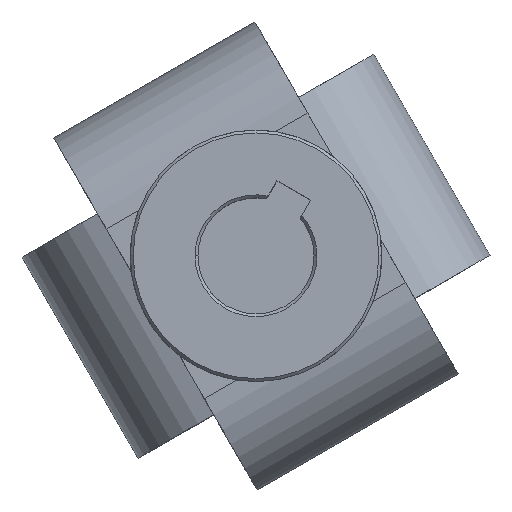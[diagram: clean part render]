
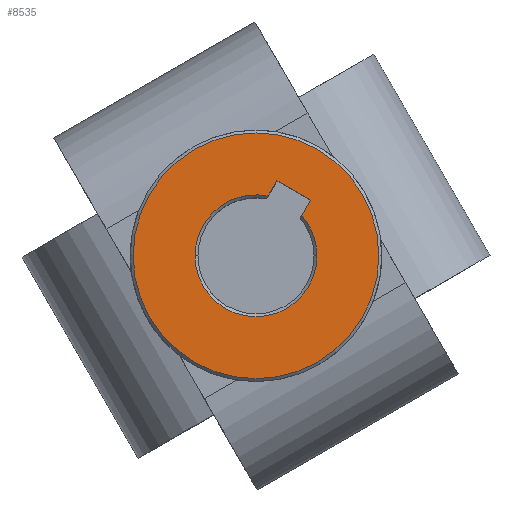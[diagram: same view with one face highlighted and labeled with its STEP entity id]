
A CAD part, top view. The second image highlights one B-rep face of the part: STEP entity #8535.
In plain terms, the highlighted planar face has unit normal (0, 0, 1).
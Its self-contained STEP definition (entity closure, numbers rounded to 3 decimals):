
#173 = DIRECTION ( 'NONE',  ( 0., 0., -1. ) ) ;
#276 = EDGE_CURVE ( 'NONE', #6693, #2104, #1416, .T. ) ;
#420 = AXIS2_PLACEMENT_3D ( 'NONE', #7404, #173, #6691 ) ;
#462 = AXIS2_PLACEMENT_3D ( 'NONE', #2906, #2186, #3674 ) ;
#483 = CARTESIAN_POINT ( 'NONE',  ( 5.632, 5.755, 45. ) ) ;
#584 = CARTESIAN_POINT ( 'NONE',  ( 1.255, 6.174, 45. ) ) ;
#768 = DIRECTION ( 'NONE',  ( 0.866, -0.5, 0. ) ) ;
#849 = AXIS2_PLACEMENT_3D ( 'NONE', #4908, #4119, #5597 ) ;
#915 = EDGE_LOOP ( 'NONE', ( #2523, #2291 ) ) ;
#945 = EDGE_CURVE ( 'NONE', #1968, #6693, #4187, .T. ) ;
#977 = EDGE_LOOP ( 'NONE', ( #3448, #2430, #1291, #7324, #6520, #3904 ) ) ;
#1061 = CARTESIAN_POINT ( 'NONE',  ( 12.7, 0., 45. ) ) ;
#1183 = LINE ( 'NONE', #2163, #4566 ) ;
#1284 = CIRCLE ( 'NONE', #849, 12.7 ) ;
#1291 = ORIENTED_EDGE ( 'NONE', *, *, #5308, .T. ) ;
#1416 = LINE ( 'NONE', #2938, #2062 ) ;
#1697 = CARTESIAN_POINT ( 'NONE',  ( 0., 0., 45. ) ) ;
#1968 = VERTEX_POINT ( 'NONE', #2517 ) ;
#2014 = VERTEX_POINT ( 'NONE', #5342 ) ;
#2039 = DIRECTION ( 'NONE',  ( 0.5, 0.866, 0. ) ) ;
#2062 = VECTOR ( 'NONE', #768, 1000. ) ;
#2104 = VERTEX_POINT ( 'NONE', #483 ) ;
#2163 = CARTESIAN_POINT ( 'NONE',  ( 5.632, 5.755, 45. ) ) ;
#2186 = DIRECTION ( 'NONE',  ( 0., 0., -1. ) ) ;
#2291 = ORIENTED_EDGE ( 'NONE', *, *, #5541, .F. ) ;
#2430 = ORIENTED_EDGE ( 'NONE', *, *, #4022, .T. ) ;
#2517 = CARTESIAN_POINT ( 'NONE',  ( 1.255, 6.174, 45. ) ) ;
#2523 = ORIENTED_EDGE ( 'NONE', *, *, #5209, .F. ) ;
#2543 = CIRCLE ( 'NONE', #8160, 12.7 ) ;
#2624 = DIRECTION ( 'NONE',  ( 1., 0., 0. ) ) ;
#2765 = EDGE_CURVE ( 'NONE', #2104, #7688, #1183, .T. ) ;
#2906 = CARTESIAN_POINT ( 'NONE',  ( 0., 0., 45. ) ) ;
#2938 = CARTESIAN_POINT ( 'NONE',  ( 2.168, 7.755, 45. ) ) ;
#3378 = CARTESIAN_POINT ( 'NONE',  ( 6.3, 0., 45. ) ) ;
#3448 = ORIENTED_EDGE ( 'NONE', *, *, #2765, .T. ) ;
#3624 = VERTEX_POINT ( 'NONE', #1061 ) ;
#3632 = CARTESIAN_POINT ( 'NONE',  ( -12.7, 0., 45. ) ) ;
#3674 = DIRECTION ( 'NONE',  ( 1., 0., 0. ) ) ;
#3795 = DIRECTION ( 'NONE',  ( 1., 0., 0. ) ) ;
#3855 = DIRECTION ( 'NONE',  ( 0., 0., -1. ) ) ;
#3904 = ORIENTED_EDGE ( 'NONE', *, *, #276, .T. ) ;
#3929 = DIRECTION ( 'NONE',  ( 0., 0., 1. ) ) ;
#4022 = EDGE_CURVE ( 'NONE', #7688, #5628, #8693, .T. ) ;
#4119 = DIRECTION ( 'NONE',  ( 0., 0., -1. ) ) ;
#4173 = AXIS2_PLACEMENT_3D ( 'NONE', #1697, #3855, #3795 ) ;
#4187 = LINE ( 'NONE', #584, #7670 ) ;
#4566 = VECTOR ( 'NONE', #7125, 1000. ) ;
#4718 = FACE_OUTER_BOUND ( 'NONE', #915, .T. ) ;
#4720 = PLANE ( 'NONE',  #5061 ) ;
#4908 = CARTESIAN_POINT ( 'NONE',  ( 0., 0., 45. ) ) ;
#5061 = AXIS2_PLACEMENT_3D ( 'NONE', #6177, #3929, #2624 ) ;
#5209 = EDGE_CURVE ( 'NONE', #8736, #3624, #2543, .T. ) ;
#5308 = EDGE_CURVE ( 'NONE', #5628, #2014, #8682, .T. ) ;
#5342 = CARTESIAN_POINT ( 'NONE',  ( -6.3, 0., 45. ) ) ;
#5541 = EDGE_CURVE ( 'NONE', #3624, #8736, #1284, .T. ) ;
#5597 = DIRECTION ( 'NONE',  ( -1., 0., 0. ) ) ;
#5628 = VERTEX_POINT ( 'NONE', #3378 ) ;
#5876 = CARTESIAN_POINT ( 'NONE',  ( 0., 0., 45. ) ) ;
#6177 = CARTESIAN_POINT ( 'NONE',  ( 0., 0., 45. ) ) ;
#6320 = CARTESIAN_POINT ( 'NONE',  ( 2.168, 7.755, 45. ) ) ;
#6520 = ORIENTED_EDGE ( 'NONE', *, *, #945, .T. ) ;
#6691 = DIRECTION ( 'NONE',  ( 1., 0., 0. ) ) ;
#6693 = VERTEX_POINT ( 'NONE', #6320 ) ;
#6845 = FACE_BOUND ( 'NONE', #977, .T. ) ;
#7125 = DIRECTION ( 'NONE',  ( -0.5, -0.866, 0. ) ) ;
#7215 = DIRECTION ( 'NONE',  ( 0., 0., -1. ) ) ;
#7324 = ORIENTED_EDGE ( 'NONE', *, *, #8069, .T. ) ;
#7404 = CARTESIAN_POINT ( 'NONE',  ( 0., 0., 45. ) ) ;
#7670 = VECTOR ( 'NONE', #2039, 1000. ) ;
#7688 = VERTEX_POINT ( 'NONE', #8268 ) ;
#7814 = CIRCLE ( 'NONE', #4173, 6.3 ) ;
#8069 = EDGE_CURVE ( 'NONE', #2014, #1968, #7814, .T. ) ;
#8160 = AXIS2_PLACEMENT_3D ( 'NONE', #5876, #7215, #8816 ) ;
#8268 = CARTESIAN_POINT ( 'NONE',  ( 4.719, 4.174, 45. ) ) ;
#8535 = ADVANCED_FACE ( 'NONE', ( #6845, #4718 ), #4720, .T. ) ;
#8682 = CIRCLE ( 'NONE', #420, 6.3 ) ;
#8693 = CIRCLE ( 'NONE', #462, 6.3 ) ;
#8736 = VERTEX_POINT ( 'NONE', #3632 ) ;
#8816 = DIRECTION ( 'NONE',  ( -1., 0., 0. ) ) ;
